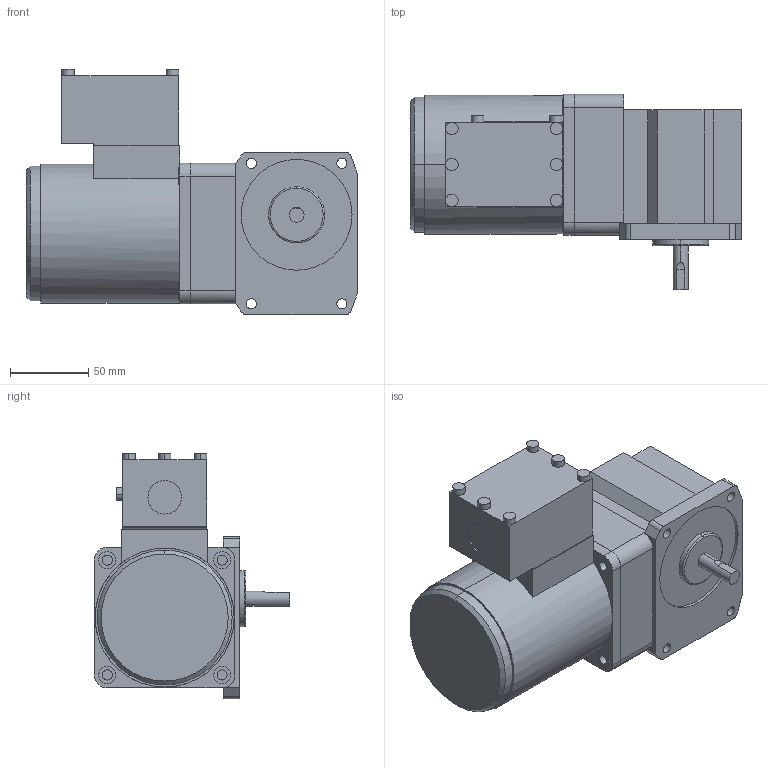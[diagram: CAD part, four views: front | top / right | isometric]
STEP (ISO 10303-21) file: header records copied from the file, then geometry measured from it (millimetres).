
FILE_DESCRIPTION(('starvars output'),'2;1');
FILE_NAME('5IK40GN-FCH _ 5GN60RAA.stp','10:34:50 2015/05/11',( 'Thomas Industrial Network Germany GmbH'),( 'Thomas Industrial Network Germany GmbH'),'unknown preprocess','ACIS' ,'unknown authorization');
FILE_SCHEMA(('AUTOMOTIVE_DESIGN_CC2 {UNKNOWN IMPLEMENTATION LEVEL}'));
Length unit declared in the file: millimetre
Products named in the file (1): PRODUCT_ID_247
Bounding box: 212 x 125 x 157.2 mm (x, y, z)
Volume: 1639028.8 mm3; surface area: 108000 mm2
Topology: 2 solids, 2 shells, 162 faces, 395 edges, 256 vertices
Faces by surface type: plane 82, cylinder 76, torus 2, cone 2
Entity records: 5637 total; most frequent: ORIENTED_EDGE 790, CARTESIAN_POINT 731, DIRECTION 664, EDGE_CURVE 395, VERTEX_POINT 256, AXIS2_PLACEMENT_3D 225, VECTOR 214, LINE 214
